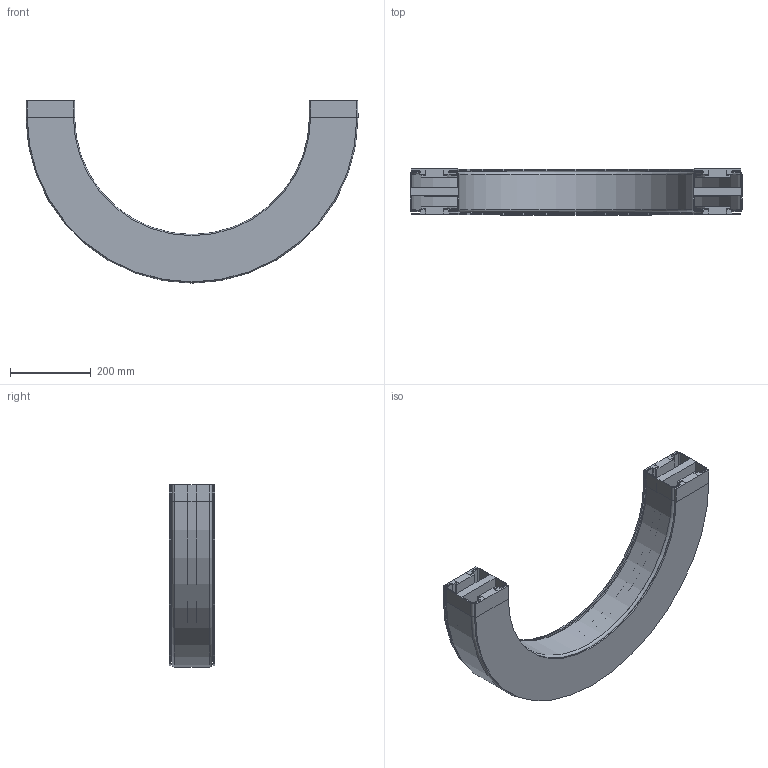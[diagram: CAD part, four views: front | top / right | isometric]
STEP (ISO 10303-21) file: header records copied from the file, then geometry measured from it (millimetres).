
FILE_DESCRIPTION (( 'STEP AP214' ), '1' );
FILE_NAME ('VC.120 Horizontale bochtsectie.R350 180.STEP', '2017-02-08T07:48:20', ( '' ), ( '' ), 'SwSTEP 2.0', 'SolidWorks 2016', '' );
FILE_SCHEMA (( 'AUTOMOTIVE_DESIGN' ));
Length unit declared in the file: millimetre
Products named in the file (1): VC.120 Horizontale bochtsectie.R350 180
Bounding box: 820 x 113 x 450 mm (x, y, z)
Volume: 6954824.1 mm3; surface area: 1693495.3 mm2
Topology: 1 solids, 1 shells, 210 faces, 488 edges, 280 vertices
Faces by surface type: plane 152, cylinder 38, cone 12, torus 8
Entity records: 5814 total; most frequent: DIRECTION 1018, CARTESIAN_POINT 979, ORIENTED_EDGE 976, EDGE_CURVE 488, LINE 380, VECTOR 380, AXIS2_PLACEMENT_3D 319, VERTEX_POINT 280
